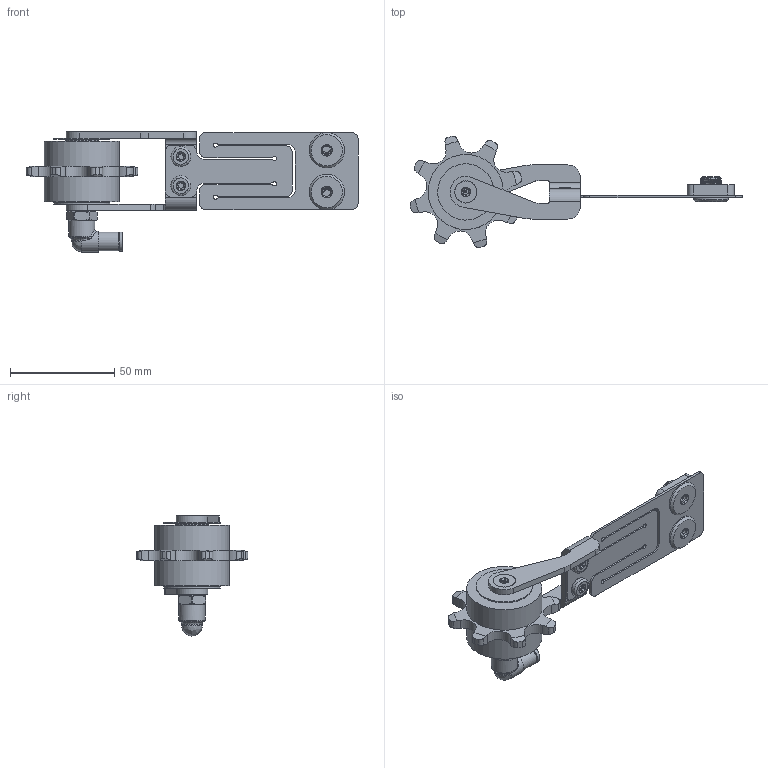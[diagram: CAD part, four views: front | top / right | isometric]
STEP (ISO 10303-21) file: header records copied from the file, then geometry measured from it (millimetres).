
FILE_DESCRIPTION (( 'STEP AP214' ), '1' );
FILE_NAME ('012_06_12B1_C.STEP', '2026-01-20T13:09:54', ( '' ), ( '' ), 'SwSTEP 2.0', 'SolidWorks 2022', '' );
FILE_SCHEMA (( 'AUTOMOTIVE_DESIGN' ));
Length unit declared in the file: millimetre
Products named in the file (10): 012_06_12B1_C; 012E20_070_Federblech; 012_06_12A_DMU_1; 012_06_12B1_Kettenschmierritzel 12 B-1; 012_06E01_10_Schraube_M10; 012_06E01_10_Schraube_M5; Montagespange_30_b; 9911_0503_0440_Stckverschr_wkl; Senkkopfschraube_M5_ISR; 012_10_05_Gewindescheibe_M10
Assembly tree (11 placements, depth 2):
  012_06_12B1_C
    Montagespange_30_b
    012E20_070_Federblech
    012_10_05_Gewindescheibe_M10
    012_06E01_10_Schraube_M10  x2
    9911_0503_0440_Stckverschr_wkl
    012_06_12A_DMU_1
    012_06E01_10_Schraube_M5  x2
    Senkkopfschraube_M5_ISR
    012_06_12B1_Kettenschmierritzel 12 B-1
Bounding box: 159.26 x 53.53 x 57.6 mm (x, y, z)
Volume: 43367.3 mm3; surface area: 30112.2 mm2
Topology: 7 solids, 21 shells, 837 faces, 2236 edges, 1470 vertices
Faces by surface type: plane 322, cylinder 261, bspline 163, cone 91
Full cylindrical faces by diameter (mm): 4 x3, 4.2 x3, 4.3 x1, 4.917 x2, 5 x10, 5.1 x3, 8.1 x1, 8.4 x2, 8.5 x1, 8.511 x1, 9 x1, 9.2 x1, 9.5 x2, 10 x3, 10.1 x2, 12 x3, 12.1 x1, 12.5 x1, 12.9 x1, 14 x1, 16 x2, 17 x2, 27 x2, 36 x2
Entity records: 49334 total; most frequent: CARTESIAN_POINT 28059, ORIENTED_EDGE 3740, DIRECTION 2924, EDGE_CURVE 1895, VERTEX_POINT 1291, AXIS2_PLACEMENT_3D 987, VECTOR 950, LINE 950
